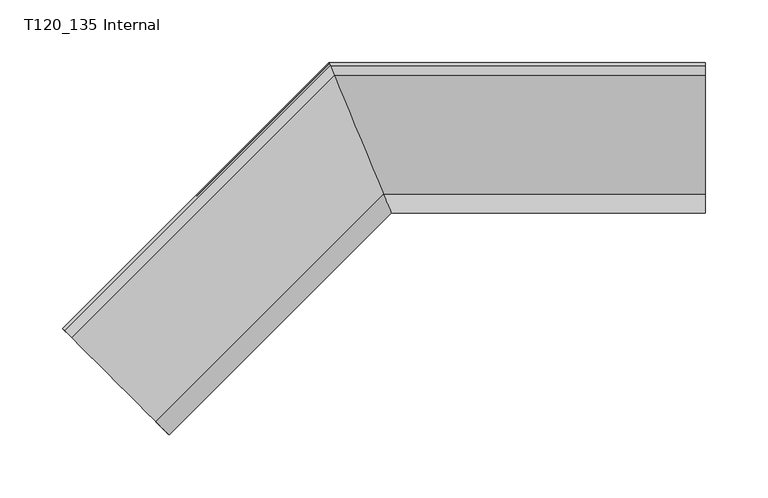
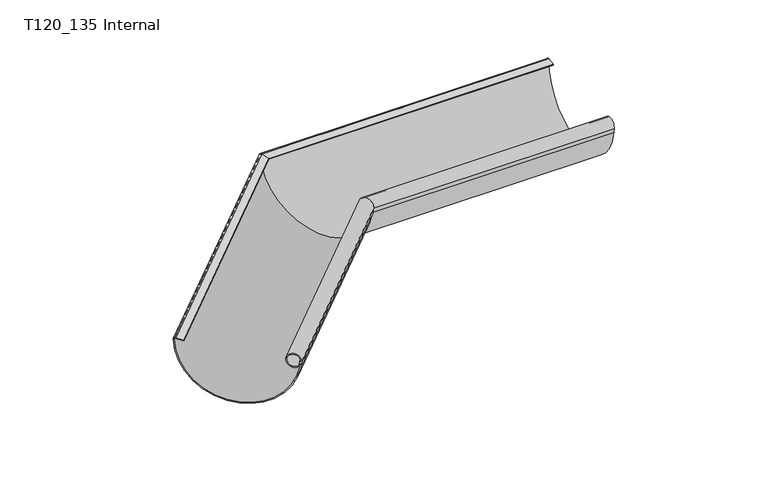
"""IFC4 building model written with IfcOpenShell, lengths in millimetres: proxy geometry, GROVIK_Gutter_Corner : T120_135 Internal."""

from ifc_helpers import new_model, si_unit, frame, origin, place, context, project, spatial, polyline, circle_curve, ellipse_curve, source, transform, mapped, element, save
from ifc_brep_helpers import plane_surface, cylinder_surface, revolved_surface, advanced_brep


def t120_135_internal_8a1ae8b3(model_context):
    return source(origin(), model_context, "Body", "AdvancedBrep", [
        advanced_brep(
        [(-127.8060768, -296.4579919, -10.4251966), (-127.2827145, -296.9813543, -5.2006666), (-128.9853903, -295.2786785, -10.6080252), (-128.4590725, -295.8049962, -9.0063664), (-128.0693574, -296.1947113, -5.5500325), (-128.696928, -295.5671407, -5.4006666), (-129.0968871, -295.1671816, -8.9478528), (-129.4357827, -294.828286, -9.9710741), (-127.9228609, -296.3412078, -5.3813466), (-128.5044609, -295.7596078, -10.26861), (-211.4220887, -212.84198, -2.0579588), (-210.5074515, -213.7566172, -0.9559749), (-205.212466, -219.0516027, -2.295228), (-205.1004259, -219.1636428, -1.4092855), (-210.5763467, -213.687722, -0.0242687), (-212.1320344, -212.1320344, -1.8), (0.0585786, 0.0585786, -1.8), (49.4555809, -119.1963342, -10.4251966), (0.9698794, -2.1414959, -0.0242687), (4.1775995, -9.8856174, -1.4092855), (4.111968, -9.7271688, -2.295228), (1.0102373, -2.2389285, -0.9559749), (0.4744552, -0.9454361, -2.0579588), (49.046477, -118.20867, -10.26861), (49.3871704, -119.0311766, -5.3813466), (48.5009213, -116.891582, -9.9710741), (48.6994418, -117.3708528, -8.9478528), (48.9337324, -117.9364803, -5.4006666), (49.3013547, -118.8239992, -5.5500325), (49.0730649, -118.2728589, -9.0063664), (48.7647551, -117.5285331, -10.6080252), (49.7621595, -119.9364803, -5.2006666)],
        [
            (0, 1),
            (1, 2, circle_curve(frame((-132.5860153, -291.6780534, -5.1006666), z_axis=(-0.7071067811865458, -0.7071067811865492, 0.0), x_axis=(0.7071067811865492, -0.7071067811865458, 0.0)), 7.5006666)),
            (2, 3, circle_curve(frame((-130.7147208, -293.5493479, -8.4977001), z_axis=(-0.7071067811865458, -0.7071067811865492, 0.0), x_axis=(0.7071067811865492, -0.7071067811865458, 0.0)), 3.2302694)),
            (3, 4),
            (4, 5),
            (5, 6),
            (6, 7, circle_curve(frame((-130.5247937, -293.739275, -8.6258487), z_axis=(0.7071067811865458, 0.7071067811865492, 0.0), x_axis=(0.7071067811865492, -0.7071067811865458, 0.0)), 2.0448768)),
            (7, 8, circle_curve(frame((-132.5860153, -291.6780534, -5.1006666), z_axis=(0.7071067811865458, 0.7071067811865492, 0.0), x_axis=(0.7071067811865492, -0.7071067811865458, 0.0)), 6.6006666)),
            (8, 9),
            (9, 10, circle_curve(frame((-169.7091213, -254.5549474, -1.03), z_axis=(0.7071067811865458, 0.7071067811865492, 0.0), x_axis=(0.7071067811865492, -0.7071067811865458, 0.0)), 59.0)),
            (10, 11, circle_curve(frame((-210.6443893, -213.6196794, -2.0387934), z_axis=(0.7071067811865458, 0.7071067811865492, 0.0), x_axis=(0.7071067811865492, -0.7071067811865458, 0.0)), 1.1)),
            (11, 12),
            (12, 13),
            (13, 14),
            (14, 15, circle_curve(frame((-210.7903936, -213.4736751, -1.9), z_axis=(-0.7071067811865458, -0.7071067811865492, 0.0), x_axis=(0.7071067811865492, -0.7071067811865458, 0.0)), 1.9)),
            (15, 0, circle_curve(frame((-169.7091213, -254.5549474, -1.03), z_axis=(-0.7071067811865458, -0.7071067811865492, 0.0), x_axis=(0.7071067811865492, -0.7071067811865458, 0.0)), 60.0)),
            (15, 16),
            (16, 17, ellipse_curve(frame((24.9093457, -59.9364803, -1.03), z_axis=(-0.9238795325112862, -0.3826834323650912, 0.0), x_axis=(0.3826834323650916, -0.923879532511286, 0.0)), 64.943532, 60.0)),
            (17, 0),
            (14, 18),
            (18, 16, ellipse_curve(frame((0.8444936, -1.838788, -1.9), z_axis=(-0.9238795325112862, -0.3826834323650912, 0.0), x_axis=(0.3826834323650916, -0.923879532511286, 0.0)), 2.0565452, 1.9)),
            (13, 19),
            (19, 18),
            (12, 20),
            (20, 19),
            (11, 21),
            (21, 20),
            (10, 22),
            (22, 21, ellipse_curve(frame((0.9300209, -2.0452691, -2.0387934), z_axis=(0.9238795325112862, 0.3826834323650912, 0.0), x_axis=(-0.3826834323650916, 0.923879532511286, 0.0)), 1.1906314, 1.1)),
            (9, 23),
            (23, 22, ellipse_curve(frame((24.9093457, -59.9364803, -1.03), z_axis=(0.9238795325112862, 0.3826834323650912, 0.0), x_axis=(-0.3826834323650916, 0.923879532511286, 0.0)), 63.8611398, 59.0)),
            (8, 24),
            (24, 23),
            (7, 25),
            (25, 24, ellipse_curve(frame((46.6555578, -112.4364803, -5.1006666), z_axis=(0.9238795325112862, 0.3826834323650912, 0.0), x_axis=(-0.3826834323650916, 0.923879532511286, 0.0)), 7.1445101, 6.6006666)),
            (6, 26),
            (26, 25, ellipse_curve(frame((47.8629934, -115.3514879, -8.6258487), z_axis=(0.9238795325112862, 0.3826834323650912, 0.0), x_axis=(-0.3826834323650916, 0.923879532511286, 0.0)), 2.2133587, 2.0448768)),
            (5, 27),
            (27, 26),
            (4, 28),
            (28, 27),
            (3, 29),
            (29, 28),
            (2, 30),
            (30, 29, ellipse_curve(frame((47.7517367, -115.0828904, -8.4977001), z_axis=(-0.9238795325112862, -0.3826834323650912, 0.0), x_axis=(0.3826834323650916, -0.923879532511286, 0.0)), 3.4964184, 3.2302694)),
            (1, 31),
            (31, 30, ellipse_curve(frame((46.6555578, -112.4364803, -5.1006666), z_axis=(-0.9238795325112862, -0.3826834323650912, 0.0), x_axis=(0.3826834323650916, -0.923879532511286, 0.0)), 8.1186631, 7.5006666)),
            (17, 31),
        ],
        [
            plane_surface(frame((-212.1320344, -212.1320344, 0.0), z_axis=(-0.7071067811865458, -0.7071067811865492, 0.0), x_axis=(0.0, 0.0, 1.0))),
            cylinder_surface(frame((-169.7091213, -254.5549474, -1.03), z_axis=(-0.7071067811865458, -0.7071067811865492, 0.0), x_axis=(0.7071067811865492, -0.7071067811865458, 0.0)), 60.0),
            cylinder_surface(frame((-210.7903936, -213.4736751, -1.9), z_axis=(-0.7071067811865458, -0.7071067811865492, 0.0), x_axis=(0.7071067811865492, -0.7071067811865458, 0.0)), 1.9),
            plane_surface(frame((-210.5763467, -213.687722, -0.0242687), z_axis=(0.12448897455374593, -0.12448897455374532, 0.9843805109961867), x_axis=(0.7071067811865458, 0.7071067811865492, 0.0))),
            plane_surface(frame((-205.1004259, -219.1636428, -1.4092855), z_axis=(0.6960621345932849, -0.6960621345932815, -0.1760539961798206), x_axis=(0.7071067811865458, 0.7071067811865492, 0.0))),
            plane_surface(frame((-205.212466, -219.0516027, -2.295228), z_axis=(-0.12448897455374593, 0.12448897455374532, -0.9843805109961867), x_axis=(0.7071067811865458, 0.7071067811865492, 0.0))),
            revolved_surface(polyline([(2.030020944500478, -2.5009040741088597, -2.0387934), (-209.8665718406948, -214.3974968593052, -2.0387934)]), (-210.6443893, -213.6196794, -2.0387934), (0.7071067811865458, 0.7071067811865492, 0.0)),
            revolved_surface(polyline([(83.90934574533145, -84.37508053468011, -1.03), (-127.98982120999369, -296.2742474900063, -1.03)]), (-169.7091213, -254.5549474, -1.03), (0.7071067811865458, 0.7071067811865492, 0.0)),
            plane_surface(frame((-128.5044609, -295.7596078, -10.26861), z_axis=(-0.6973007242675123, 0.6973007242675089, 0.16596204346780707), x_axis=(0.7071067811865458, 0.7071067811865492, 0.0))),
            revolved_surface(polyline([(53.256224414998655, -115.17056591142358, -5.1006666), (-127.91863918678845, -296.34542951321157, -5.1006666)]), (-132.5860153, -291.6780534, -5.1006666), (0.7071067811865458, 0.7071067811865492, 0.0)),
            revolved_surface(polyline([(49.90787020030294, -116.1985036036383, -8.6258487), (-129.07884744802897, -295.1852212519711, -8.6258487)]), (-130.5247937, -293.739275, -8.6258487), (0.7071067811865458, 0.7071067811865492, 0.0)),
            plane_surface(frame((-129.0968871, -295.1671816, -8.9478528), z_axis=(-0.6982849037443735, 0.69828490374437, 0.15746868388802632), x_axis=(0.7071067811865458, 0.7071067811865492, 0.0))),
            plane_surface(frame((-128.696928, -295.5671407, -5.4006666), z_axis=(0.11735288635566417, -0.1173528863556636, 0.9861321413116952), x_axis=(0.7071067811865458, 0.7071067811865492, 0.0))),
            plane_surface(frame((-128.0693574, -296.1947113, -5.5500325), z_axis=(0.698284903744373, -0.6982849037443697, -0.15746868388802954), x_axis=(0.7071067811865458, 0.7071067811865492, 0.0))),
            cylinder_surface(frame((-130.7147208, -293.5493479, -8.4977001), z_axis=(-0.7071067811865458, -0.7071067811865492, 0.0), x_axis=(0.7071067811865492, -0.7071067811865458, 0.0)), 3.2302694),
            cylinder_surface(frame((-132.5860153, -291.6780534, -5.1006666), z_axis=(-0.7071067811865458, -0.7071067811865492, 0.0), x_axis=(0.7071067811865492, -0.7071067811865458, 0.0)), 7.5006666),
            plane_surface(frame((-127.2827145, -296.9813543, -5.2006666), z_axis=(0.7001161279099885, -0.7001161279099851, -0.14026694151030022), x_axis=(0.7071067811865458, 0.7071067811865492, 0.0))),
            plane_surface(frame((49.8470488, -120.1414214, 250.0), z_axis=(0.9238795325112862, 0.3826834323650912, 0.0), x_axis=(0.0, 0.0, -1.0))),
        ],
        [
            (0, [[1, 2, 3, 4, 5, 6, 7, 8, 9, 10, 11, 12, 13, 14, 15, 16]]),
            (1, [[17, 18, 19, -16]]),
            (2, [[20, 21, -17, -15]]),
            (3, [[22, 23, -20, -14]]),
            (4, [[24, 25, -22, -13]]),
            (5, [[26, 27, -24, -12]]),
            (6, [[28, 29, -26, -11]]),
            (7, [[30, 31, -28, -10]]),
            (8, [[32, 33, -30, -9]]),
            (9, [[34, 35, -32, -8]]),
            (10, [[36, 37, -34, -7]]),
            (11, [[38, 39, -36, -6]]),
            (12, [[40, 41, -38, -5]]),
            (13, [[42, 43, -40, -4]]),
            (14, [[44, 45, -42, -3]]),
            (15, [[46, 47, -44, -2]]),
            (16, [[-19, 48, -46, -1]]),
            (17, [[-21, -23, -25, -27, -29, -31, -33, -35, -37, -39, -41, -43, -45, -47, -48, -18]]),
        ],
    ),
        advanced_brep(
        [(300.0, -119.2549128, -10.4251966), (300.0, 0.0, -1.8), (300.0, -2.2000746, -0.0242687), (300.0, -9.9441961, -1.4092855), (300.0, -9.7857475, -2.295228), (300.0, -2.2975071, -0.9559749), (300.0, -1.0040147, -2.0579588), (300.0, -118.2672486, -10.26861), (300.0, -119.0897552, -5.3813466), (300.0, -116.9501607, -9.9710741), (300.0, -117.4294315, -8.9478528), (300.0, -117.995059, -5.4006666), (300.0, -118.8825779, -5.5500325), (300.0, -118.3314375, -9.0063664), (300.0, -117.5871118, -10.6080252), (300.0, -119.995059, -5.2006666), (49.3141596, -119.2549128, -10.4251966), (-0.0828427, 0.0, -1.8), (0.828458, -2.2000746, -0.0242687), (4.0361782, -9.9441961, -1.4092855), (3.9705466, -9.7857475, -2.295228), (0.8688159, -2.2975071, -0.9559749), (0.3330338, -1.0040147, -2.0579588), (48.9050556, -118.2672486, -10.26861), (49.245749, -119.0897552, -5.3813466), (48.3595, -116.9501607, -9.9710741), (48.5580204, -117.4294315, -8.9478528), (48.792311, -117.995059, -5.4006666), (49.1599334, -118.8825779, -5.5500325), (48.9316436, -118.3314375, -9.0063664), (48.6233337, -117.5871118, -10.6080252), (49.6207381, -119.995059, -5.2006666)],
        [
            (0, 1, circle_curve(frame((300.0, -59.995059, -1.03), z_axis=(1.0, 0.0, 0.0), x_axis=(0.0, -1.0, 0.0)), 60.0)),
            (1, 2, circle_curve(frame((300.0, -1.8973666, -1.9), z_axis=(1.0, 0.0, 0.0), x_axis=(0.0, -1.0, 0.0)), 1.9)),
            (2, 3),
            (3, 4),
            (4, 5),
            (5, 6, circle_curve(frame((300.0, -2.1038477, -2.0387934), z_axis=(-1.0, 0.0, 0.0), x_axis=(0.0, -1.0, 0.0)), 1.1)),
            (6, 7, circle_curve(frame((300.0, -59.995059, -1.03), z_axis=(-1.0, 0.0, 0.0), x_axis=(0.0, -1.0, 0.0)), 59.0)),
            (7, 8),
            (8, 9, circle_curve(frame((300.0, -112.495059, -5.1006666), z_axis=(-1.0, 0.0, 0.0), x_axis=(0.0, -1.0, 0.0)), 6.6006666)),
            (9, 10, circle_curve(frame((300.0, -115.4100665, -8.6258487), z_axis=(-1.0, 0.0, 0.0), x_axis=(0.0, -1.0, 0.0)), 2.0448768)),
            (10, 11),
            (11, 12),
            (12, 13),
            (13, 14, circle_curve(frame((300.0, -115.141469, -8.4977001), z_axis=(1.0, 0.0, 0.0), x_axis=(0.0, -1.0, 0.0)), 3.2302694)),
            (14, 15, circle_curve(frame((300.0, -112.495059, -5.1006666), z_axis=(1.0, 0.0, 0.0), x_axis=(0.0, -1.0, 0.0)), 7.5006666)),
            (15, 0),
            (0, 16),
            (16, 17, ellipse_curve(frame((24.7679244, -59.995059, -1.03), z_axis=(0.9238795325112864, 0.3826834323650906, 0.0), x_axis=(0.3826834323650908, -0.9238795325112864, 0.0)), 64.943532, 60.0)),
            (17, 1),
            (17, 18, ellipse_curve(frame((0.7030723, -1.8973666, -1.9), z_axis=(0.9238795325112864, 0.3826834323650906, 0.0), x_axis=(0.3826834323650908, -0.9238795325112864, 0.0)), 2.0565452, 1.9)),
            (18, 2),
            (18, 19),
            (19, 3),
            (19, 20),
            (20, 4),
            (20, 21),
            (21, 5),
            (21, 22, ellipse_curve(frame((0.7885996, -2.1038477, -2.0387934), z_axis=(-0.9238795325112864, -0.3826834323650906, 0.0), x_axis=(-0.3826834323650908, 0.9238795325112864, 0.0)), 1.1906314, 1.1)),
            (22, 6),
            (22, 23, ellipse_curve(frame((24.7679244, -59.995059, -1.03), z_axis=(-0.9238795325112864, -0.3826834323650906, 0.0), x_axis=(-0.3826834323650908, 0.9238795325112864, 0.0)), 63.8611398, 59.0)),
            (23, 7),
            (23, 24),
            (24, 8),
            (24, 25, ellipse_curve(frame((46.5141364, -112.495059, -5.1006666), z_axis=(-0.9238795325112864, -0.3826834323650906, 0.0), x_axis=(-0.3826834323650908, 0.9238795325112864, 0.0)), 7.1445101, 6.6006666)),
            (25, 9),
            (25, 26, ellipse_curve(frame((47.7215721, -115.4100665, -8.6258487), z_axis=(-0.9238795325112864, -0.3826834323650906, 0.0), x_axis=(-0.3826834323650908, 0.9238795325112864, 0.0)), 2.2133587, 2.0448768)),
            (26, 10),
            (26, 27),
            (27, 11),
            (27, 28),
            (28, 12),
            (28, 29),
            (29, 13),
            (29, 30, ellipse_curve(frame((47.6103154, -115.141469, -8.4977001), z_axis=(0.9238795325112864, 0.3826834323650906, 0.0), x_axis=(0.3826834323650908, -0.9238795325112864, 0.0)), 3.4964184, 3.2302694)),
            (30, 14),
            (30, 31, ellipse_curve(frame((46.5141364, -112.495059, -5.1006666), z_axis=(0.9238795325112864, 0.3826834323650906, 0.0), x_axis=(0.3826834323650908, -0.9238795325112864, 0.0)), 8.1186631, 7.5006666)),
            (31, 15),
            (31, 16),
        ],
        [
            plane_surface(frame((300.0, 0.0, 0.0), z_axis=(1.0, 0.0, 0.0), x_axis=(0.0, 0.0, 1.0))),
            cylinder_surface(frame((300.0, -59.995059, -1.03), z_axis=(1.0, 0.0, 0.0), x_axis=(0.0, -1.0, 0.0)), 60.0),
            cylinder_surface(frame((300.0, -1.8973666, -1.9), z_axis=(1.0, 0.0, 0.0), x_axis=(0.0, -1.0, 0.0)), 1.9),
            plane_surface(frame((300.0, -2.2000746, -0.0242687), z_axis=(0.0, -0.17605399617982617, 0.9843805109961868), x_axis=(-1.0, 0.0, 0.0))),
            plane_surface(frame((300.0, -9.9441961, -1.4092855), z_axis=(0.0, -0.9843805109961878, -0.1760539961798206), x_axis=(-1.0, 0.0, 0.0))),
            plane_surface(frame((300.0, -9.7857475, -2.295228), z_axis=(0.0, 0.17605399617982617, -0.9843805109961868), x_axis=(-1.0, 0.0, 0.0))),
            revolved_surface(polyline([(0.3329646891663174, -3.2038477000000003, -2.0387934), (300.0, -3.2038477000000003, -2.0387934)]), (300.0, -2.1038477, -2.0387934), (-1.0, 0.0, 0.0)),
            revolved_surface(polyline([(0.32932422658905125, -118.995059, -1.03), (300.0, -118.995059, -1.03)]), (300.0, -59.995059, -1.03), (-1.0, 0.0, 0.0)),
            plane_surface(frame((300.0, -118.2672486, -10.26861), z_axis=(0.0, 0.9861321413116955, 0.16596204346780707), x_axis=(-1.0, 0.0, 0.0))),
            revolved_surface(polyline([(43.7800507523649, -119.0957256, -5.1006666), (300.0, -119.0957256, -5.1006666)]), (300.0, -112.495059, -5.1006666), (-1.0, 0.0, 0.0)),
            revolved_surface(polyline([(46.87455639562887, -117.4549433, -8.6258487), (300.0, -117.4549433, -8.6258487)]), (300.0, -115.4100665, -8.6258487), (-1.0, 0.0, 0.0)),
            plane_surface(frame((300.0, -117.4294315, -8.9478528), z_axis=(0.0, 0.9875239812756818, 0.1574686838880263), x_axis=(-1.0, 0.0, 0.0))),
            plane_surface(frame((300.0, -117.995059, -5.4006666), z_axis=(0.0, -0.1659620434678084, 0.9861321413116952), x_axis=(-1.0, 0.0, 0.0))),
            plane_surface(frame((300.0, -118.8825779, -5.5500325), z_axis=(0.0, -0.9875239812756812, -0.15746868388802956), x_axis=(-1.0, 0.0, 0.0))),
            cylinder_surface(frame((300.0, -115.141469, -8.4977001), z_axis=(1.0, 0.0, 0.0), x_axis=(0.0, -1.0, 0.0)), 3.2302694),
            cylinder_surface(frame((300.0, -112.495059, -5.1006666), z_axis=(1.0, 0.0, 0.0), x_axis=(0.0, -1.0, 0.0)), 7.5006666),
            plane_surface(frame((300.0, -119.995059, -5.2006666), z_axis=(0.0, -0.9901137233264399, -0.14026694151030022), x_axis=(-1.0, 0.0, 0.0))),
            plane_surface(frame((49.7056275, -120.2, 250.0), z_axis=(-0.9238795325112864, -0.3826834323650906, 0.0), x_axis=(0.0, 0.0, -1.0))),
        ],
        [
            (0, [[1, 2, 3, 4, 5, 6, 7, 8, 9, 10, 11, 12, 13, 14, 15, 16]]),
            (1, [[-1, 17, 18, 19]]),
            (2, [[-2, -19, 20, 21]]),
            (3, [[-3, -21, 22, 23]]),
            (4, [[-4, -23, 24, 25]]),
            (5, [[-5, -25, 26, 27]]),
            (6, [[-6, -27, 28, 29]]),
            (7, [[-7, -29, 30, 31]]),
            (8, [[-8, -31, 32, 33]]),
            (9, [[-9, -33, 34, 35]]),
            (10, [[-10, -35, 36, 37]]),
            (11, [[-11, -37, 38, 39]]),
            (12, [[-12, -39, 40, 41]]),
            (13, [[-13, -41, 42, 43]]),
            (14, [[-14, -43, 44, 45]]),
            (15, [[-15, -45, 46, 47]]),
            (16, [[-16, -47, 48, -17]]),
            (17, [[-18, -48, -46, -44, -42, -40, -38, -36, -34, -32, -30, -28, -26, -24, -22, -20]]),
        ],
    ),
    ])


if __name__ == "__main__":
    model = new_model("IFC4")
    model_context = context("Model", 3, world=origin())
    ifc_project = project(units=[si_unit("LENGTHUNIT", "METRE", prefix="MILLI")], contexts=[model_context])
    site = spatial("IfcSite", under=ifc_project)
    building = spatial("IfcBuilding", under=site)
    placement = place(None, origin())
    t120_135_internal_shape = t120_135_internal_8a1ae8b3(model_context)
    element("IfcBuildingElementProxy", 1, Name="GROVIK_Gutter_Corner : T120_135 Internal", ObjectType="GROVIK_Gutter_Corner : T120_135 Internal", at=placement, inside=building, context=model_context, shape_type="MappedRepresentation", body=[
        mapped(t120_135_internal_shape, transform((0.0, 0.0, 0.0), x_axis=(1.0, 0.0, 0.0), y_axis=(0.0, 1.0, 0.0), z_axis=(0.0, 0.0, 1.0))),
    ])
    save(model, "model.ifc")
